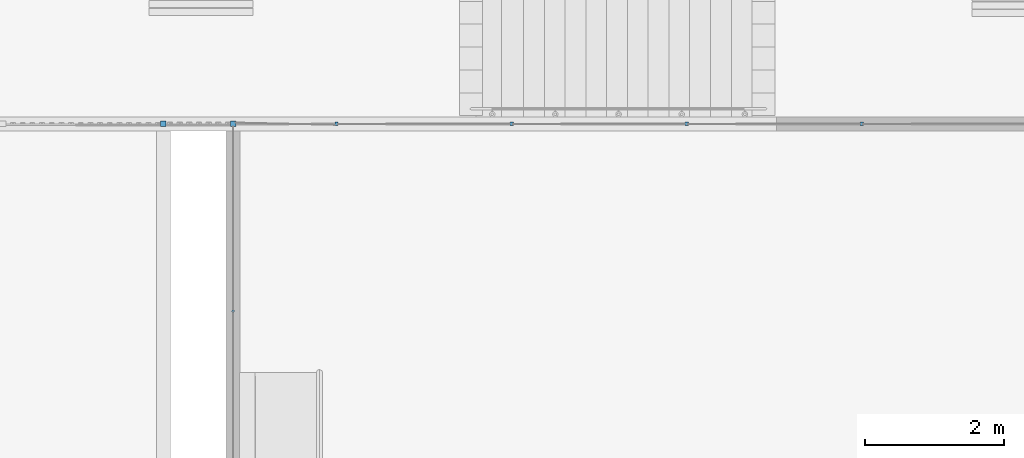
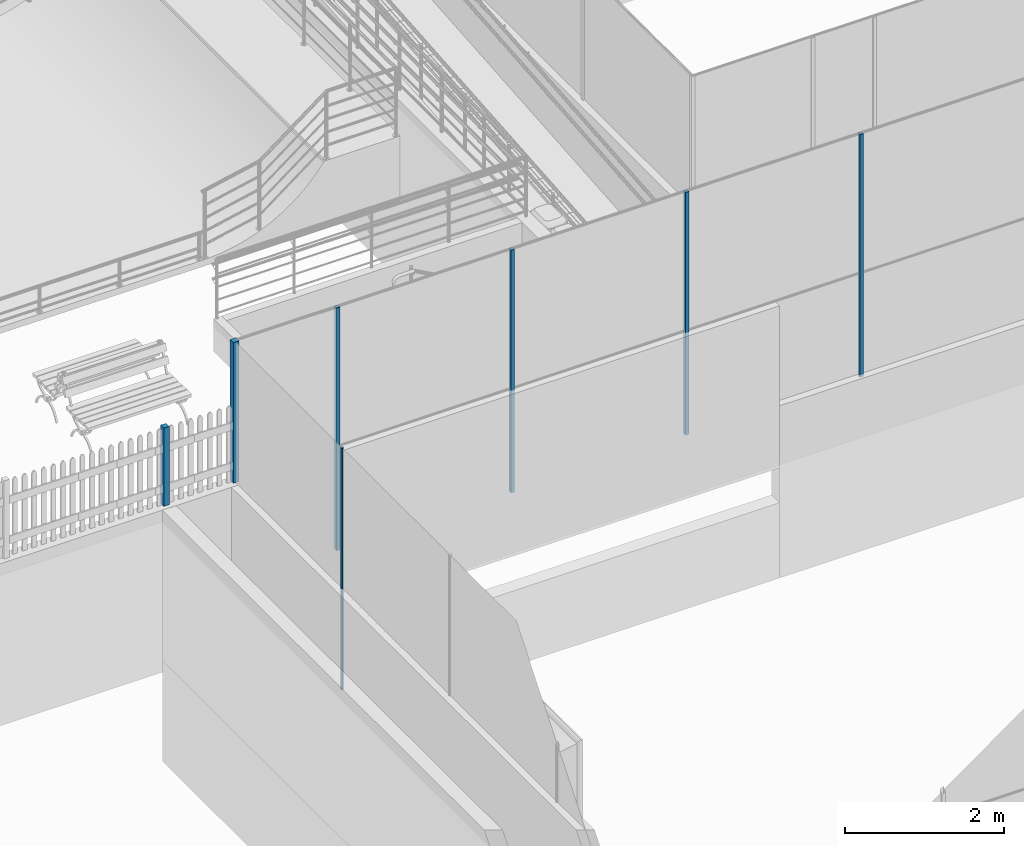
# One storey, part 4 of 237: 7 columns.
"""IFC2X3 building model written with IfcOpenShell, lengths in millimetres."""

from ifc_helpers import new_model, entity, si_unit, converted_unit, derived_unit, money_unit, direction, frame, origin_with_axes, origin_2d_with_axis, place, context, subcontext, project, spatial, rectangle, circle, extrude, material, type_object, element, save


model = new_model("IFC2X3")

# Units and contexts
model_context = context("Model", 3, precision=0.01, world=origin_with_axes(), true_north=direction((0.0, 1.0)))
body_context = subcontext(model_context, "Body", "Model", "MODEL_VIEW")
ifc_project = project(units=[si_unit("LENGTHUNIT", "METRE", prefix="MILLI"), si_unit("AREAUNIT", "SQUARE_METRE"), si_unit("VOLUMEUNIT", "CUBIC_METRE"), converted_unit("PLANEANGLEUNIT", "DEGREE", entity("IfcPlaneAngleMeasure", 0.0174532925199), si_unit("PLANEANGLEUNIT", "RADIAN"), dimensions=[0, 0, 0, 0, 0, 0, 0]), money_unit("USD"), converted_unit("TIMEUNIT", "Year", entity("IfcTimeMeasure", 31556926.0), si_unit("TIMEUNIT", "SECOND"), dimensions=[0, 0, 1, 0, 0, 0, 0]), si_unit("MASSUNIT", "GRAM", prefix="KILO"), si_unit("THERMODYNAMICTEMPERATUREUNIT", "DEGREE_CELSIUS"), si_unit("LUMINOUSINTENSITYUNIT", "LUMEN"), si_unit("ENERGYUNIT", "JOULE", prefix="MEGA"), derived_unit("THERMALCONDUCTANCEUNIT", [(si_unit("POWERUNIT", "WATT"), 1), (si_unit("LENGTHUNIT", "METRE"), -1), (si_unit("THERMODYNAMICTEMPERATUREUNIT", "KELVIN"), -1)]), derived_unit("SPECIFICHEATCAPACITYUNIT", [(si_unit("ENERGYUNIT", "JOULE"), 1), (si_unit("MASSUNIT", "GRAM", prefix="KILO"), -1), (si_unit("THERMODYNAMICTEMPERATUREUNIT", "KELVIN"), -1)]), derived_unit("MASSDENSITYUNIT", [(si_unit("MASSUNIT", "GRAM", prefix="KILO"), 1), (si_unit("VOLUMEUNIT", "CUBIC_METRE"), -1)])], contexts=[model_context])

# Site, building, storey
site_placement = place(None, origin_with_axes())
site = spatial("IfcSite", under=ifc_project, at=site_placement, Name="Local", CompositionType="ELEMENT")
building_placement = place(site_placement, origin_with_axes())
building = spatial("IfcBuilding", under=site, at=building_placement, Name="Construção", CompositionType="ELEMENT")
storey_placement = place(building_placement, origin_with_axes())
storey = spatial("IfcBuildingStorey", under=building, at=storey_placement, Name="Pavimento Térreo", CompositionType="ELEMENT", Elevation=0.0)

# Columns
ifc_material_1 = material(Name="Aço - Inoxidável")
column_type_1 = type_object("IfcColumnType", Name="Aço - Inoxidável 80 x 80", PredefinedType="NOTDEFINED")
column_1_placement = place(storey_placement, frame((58462.3630166, 23558.4725499, -1173.86351895), z_axis=(0.0, 0.0, 1.0), x_axis=(1.0, 0.0, 0.0)))
element("IfcColumn", 1, at=column_1_placement, inside=storey, type_object=column_type_1, material=ifc_material_1, Name="Pil-019", context=body_context, shape_type="SweptSolid", body=[
    extrude(rectangle(XDim=80.0, YDim=80.0, at=origin_2d_with_axis()), origin_with_axes(), (0.0, 0.0, 1.0), 1200.0),
])
column_2_placement = place(storey_placement, frame((59471.6965585, 23558.4725499, -1173.86351895), z_axis=(0.0, 0.0, 1.0), x_axis=(1.0, 0.0, 0.0)))
element("IfcColumn", 2, at=column_2_placement, inside=storey, type_object=column_type_1, material=ifc_material_1, Name="Pil-019", context=body_context, shape_type="SweptSolid", body=[
    extrude(rectangle(XDim=80.0, YDim=80.0, at=origin_2d_with_axis()), origin_with_axes(), (0.0, 0.0, 1.0), 2155.28575585),
])
ifc_material_2 = material(Name="Alumínio")
column_type_2 = type_object("IfcColumnType", Name="Alumínio 50 x 50", PredefinedType="NOTDEFINED")
for number, where, z_axis, x_axis, name in (
    (3, (68545.6077247, 23558.4725499, -2742.28516207), (0.0, 0.0, 1.0), (1.0, 0.0, 0.0), "Pil-016"),
    (4, (60962.3630166, 23558.4725499, -2742.28516207), (0.0, 0.0, 1.0), (1.0, 0.0, 0.0), "Pil-016"),
    (5, (66017.8594887, 23558.4725499, -2742.28516207), (0.0, 0.0, 1.0), (1.0, 0.0, 0.0), "Pil-016"),
    (6, (63490.1112527, 23558.4725499, -2742.28516207), (0.0, 0.0, 1.0), (1.0, 0.0, 0.0), "Pil-016"),
):
    element("IfcColumn", number, at=place(storey_placement, frame(where, z_axis=z_axis, x_axis=x_axis)), inside=storey, type_object=column_type_2, material=ifc_material_2, Name=name, context=body_context, shape_type="SweptSolid", body=[
        extrude(rectangle(XDim=50.0, YDim=50.0, at=origin_2d_with_axis()), origin_with_axes(), (0.0, 0.0, 1.0), 3718.70739897),
    ])
column_type_3 = type_object("IfcColumnType", Name="Alumínio D39", PredefinedType="NOTDEFINED")
column_3_placement = place(storey_placement, frame((59468.8798462, 20855.5970313, -2721.89460916), z_axis=(0.0, 0.0, 1.0), x_axis=(1.0, 0.0, 0.0)))
element("IfcColumn", 7, at=column_3_placement, inside=storey, type_object=column_type_3, material=ifc_material_2, Name="Pil-016", context=body_context, shape_type="SweptSolid", body=[
    extrude(circle(Radius=19.5017039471, at=origin_2d_with_axis()), origin_with_axes(), (0.0, 0.0, 1.0), 3698.31684606),
])

save(model, "model.ifc")
